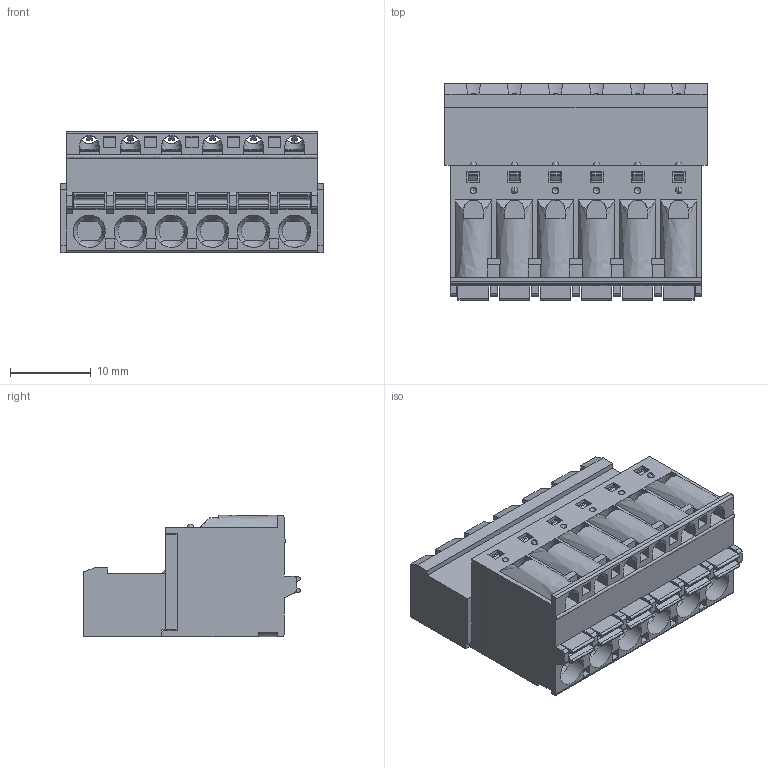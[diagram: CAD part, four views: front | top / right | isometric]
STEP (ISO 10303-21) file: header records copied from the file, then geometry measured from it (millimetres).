
FILE_DESCRIPTION(('STEP AP203'), '1');
FILE_NAME('WJ2EDGKDR-5.08-06P', '', ('UNSPECIFIED'), ('UNSPECIFIED'), 'C3D Converter', 'C3D Toolkit', '');
FILE_SCHEMA(('CONFIG_CONTROL_DESIGN'));
Length unit declared in the file: millimetre
Products named in the file (2): KLR2GKDR-5.08-06P
Assembly tree (1 placements, depth 2):
  KLR2GKDR-5.08-06P
    KLR2GKDR-5.08-06P
Bounding box: 32.48 x 26.8 x 15 mm (x, y, z)
Volume: 6542 mm3; surface area: 7598.1 mm2
Topology: 1 solids, 7 shells, 1149 faces, 3292 edges, 2088 vertices
Faces by surface type: plane 902, bspline 247
Entity records: 55188 total; most frequent: CARTESIAN_POINT 19162, ORIENTED_EDGE 6440, DIRECTION 4235, EDGE_CURVE 3220, LINE 2427, VECTOR 2427, VERTEX_POINT 2084, EDGE_LOOP 1242
